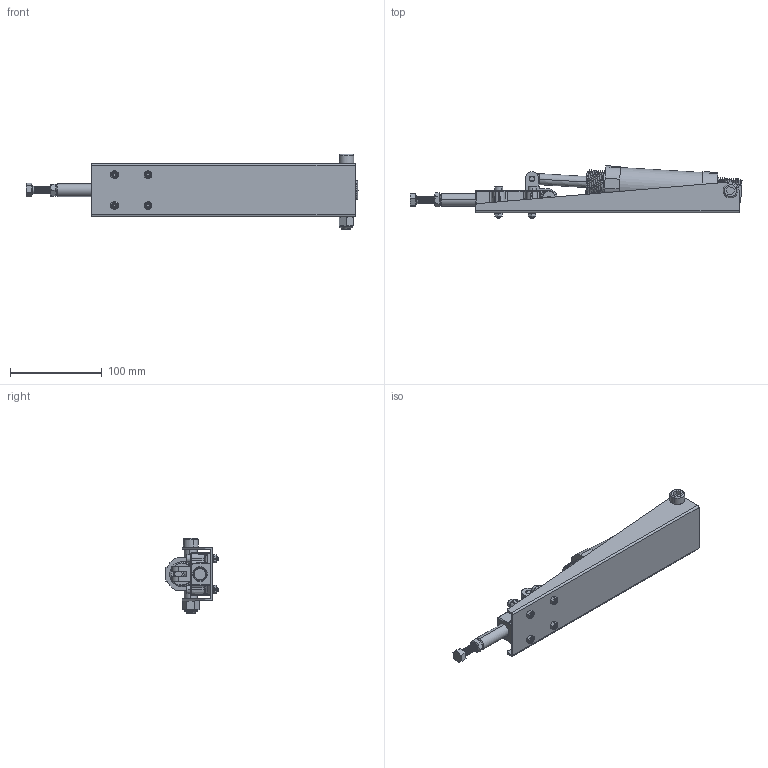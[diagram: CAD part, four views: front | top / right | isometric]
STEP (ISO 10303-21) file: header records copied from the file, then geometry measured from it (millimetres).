
FILE_DESCRIPTION(('FreeCAD Model'),'2;1');
FILE_NAME('Open CASCADE Shape Model','2021-08-18T14:51:49',('Author'),( ''),'Open CASCADE STEP processor 7.4','FreeCAD','Unknown');
FILE_SCHEMA(('AUTOMOTIVE_DESIGN { 1 0 10303 214 1 1 1 1 }'));
Length unit declared in the file: millimetre
Products named in the file (18): DST-30600-HL-A; M5_NUT; DST-30600-HL-A-04; M5-25; DST-30600-HL-A-008; DST-30600-HL-A-007; DST-30600-HL-A-006; DST-30600-HL-A-009; DST-30600-HL-A-010; DST-30600-HL-A-011; DST-30600-HL-A-012; DST-30600-HL-A-014; DST-30600-HL-A-03-01.SLDPRT-_??; DST-30600-HL-A-016; M8_NUT; DST-SA-086512_SPINDLE_SUPPLIED_??; M10_Lock_Nut; M10X65
Assembly tree (26 placements, depth 2):
  DST-30600-HL-A
    M5_NUT  x4
    DST-30600-HL-A-04  x2
    M5-25  x4
    DST-30600-HL-A-008
    DST-30600-HL-A-007
    DST-30600-HL-A-006  x2
    DST-30600-HL-A-009
    DST-30600-HL-A-010  x2
    DST-30600-HL-A-011
    DST-30600-HL-A-012
    DST-30600-HL-A-014
    DST-30600-HL-A-03-01.SLDPRT-_??
    DST-30600-HL-A-016
    M8_NUT
    DST-SA-086512_SPINDLE_SUPPLIED_??
    M10_Lock_Nut
    M10X65
Bounding box: 361.7 x 57.2 x 82 mm (x, y, z)
Volume: 287577.3 mm3; surface area: 141533.5 mm2
Topology: 26 solids, 26 shells, 2063 faces, 5585 edges, 3591 vertices
Faces by surface type: cylinder 922, plane 857, bspline 126, cone 104, torus 44, revolution 6, sphere 4
Entity records: 165551 total; most frequent: CARTESIAN_POINT 93873, DIRECTION 12164, ORIENTED_EDGE 7642, PCURVE 7642, DEFINITIONAL_REPRESENTATION 7642, LINE 6510, VECTOR 6510, EDGE_CURVE 3821
